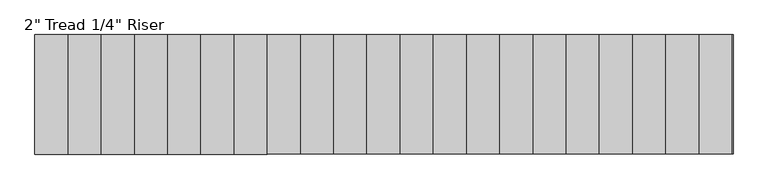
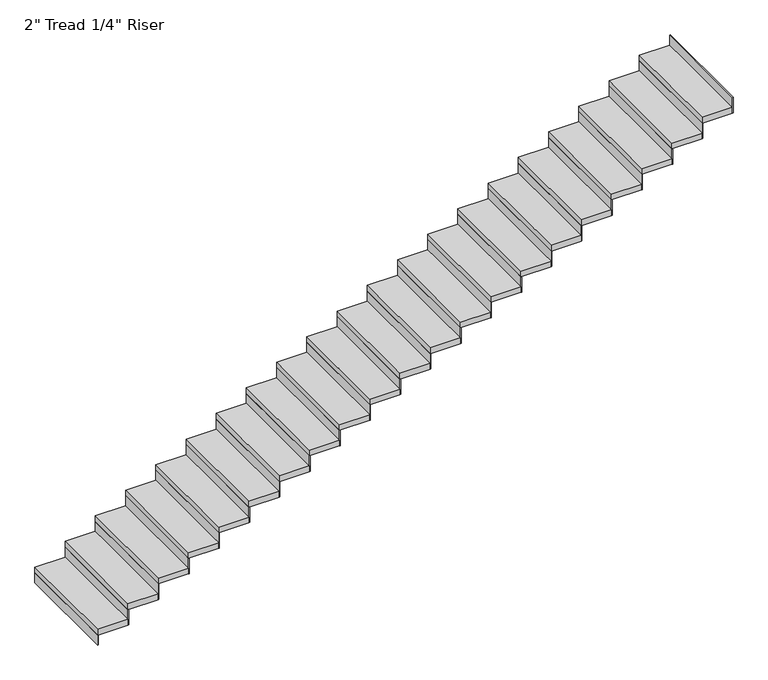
"""IFC4 building model written with IfcOpenShell, lengths in millimetres: stair flight geometry."""

from ifc_helpers import new_model, si_unit, frame, origin, origin_with_axes, place, context, project, spatial, polyline, outline, extrude, source, transform, mapped, element, save


def stair_flight_c19d4ff8(model_context):
    return source(origin(), model_context, "Body", "SweptSolid", [
        extrude(outline(polyline([(60465.2405484, -35593.481782), (60458.8905484, -35593.481782), (60458.8905484, -34679.081782), (60465.2405484, -34679.081782), (60465.2405484, -35593.481782)])), origin_with_axes(), (0.0, 0.0, 1.0), 87.7454545),
        extrude(outline(polyline([(60712.8905484, -34679.081782), (60712.8905484, -35593.481782), (60458.8905484, -35593.481782), (60458.8905484, -34679.081782), (60712.8905484, -34679.081782)])), frame((0.0, 0.0, 87.7454545), z_axis=(0.0, 0.0, 1.0), x_axis=(1.0, 0.0, 0.0)), (0.0, 0.0, 1.0), 50.8),
        extrude(outline(polyline([(60719.2405484, -35593.481782), (60712.8905484, -35593.481782), (60712.8905484, -34679.081782), (60719.2405484, -34679.081782), (60719.2405484, -35593.481782)])), frame((0.0, 0.0, 87.7454545), z_axis=(0.0, 0.0, 1.0), x_axis=(1.0, 0.0, 0.0)), (0.0, 0.0, 1.0), 138.5454545),
        extrude(outline(polyline([(60966.8905484, -34679.081782), (60966.8905484, -35593.481782), (60712.8905484, -35593.481782), (60712.8905484, -34679.081782), (60966.8905484, -34679.081782)])), frame((0.0, 0.0, 226.2909091), z_axis=(0.0, 0.0, 1.0), x_axis=(1.0, 0.0, 0.0)), (0.0, 0.0, 1.0), 50.8),
        extrude(outline(polyline([(60973.2405484, -35593.481782), (60966.8905484, -35593.481782), (60966.8905484, -34679.081782), (60973.2405484, -34679.081782), (60973.2405484, -35593.481782)])), frame((0.0, 0.0, 226.2909091), z_axis=(0.0, 0.0, 1.0), x_axis=(1.0, 0.0, 0.0)), (0.0, 0.0, 1.0), 138.5454545),
        extrude(outline(polyline([(61220.8905484, -34679.081782), (61220.8905484, -35593.481782), (60966.8905484, -35593.481782), (60966.8905484, -34679.081782), (61220.8905484, -34679.081782)])), frame((0.0, 0.0, 364.8363636), z_axis=(0.0, 0.0, 1.0), x_axis=(1.0, 0.0, 0.0)), (0.0, 0.0, 1.0), 50.8),
        extrude(outline(polyline([(61227.2405484, -35593.481782), (61220.8905484, -35593.481782), (61220.8905484, -34679.081782), (61227.2405484, -34679.081782), (61227.2405484, -35593.481782)])), frame((0.0, 0.0, 364.8363636), z_axis=(0.0, 0.0, 1.0), x_axis=(1.0, 0.0, 0.0)), (0.0, 0.0, 1.0), 138.5454545),
        extrude(outline(polyline([(61474.8905484, -34679.081782), (61474.8905484, -35593.481782), (61220.8905484, -35593.481782), (61220.8905484, -34679.081782), (61474.8905484, -34679.081782)])), frame((0.0, 0.0, 503.3818182), z_axis=(0.0, 0.0, 1.0), x_axis=(1.0, 0.0, 0.0)), (0.0, 0.0, 1.0), 50.8),
        extrude(outline(polyline([(61481.2405484, -35593.481782), (61474.8905484, -35593.481782), (61474.8905484, -34679.081782), (61481.2405484, -34679.081782), (61481.2405484, -35593.481782)])), frame((0.0, 0.0, 503.3818182), z_axis=(0.0, 0.0, 1.0), x_axis=(1.0, 0.0, 0.0)), (0.0, 0.0, 1.0), 138.5454545),
        extrude(outline(polyline([(61728.8905484, -34679.081782), (61728.8905484, -35593.481782), (61474.8905484, -35593.481782), (61474.8905484, -34679.081782), (61728.8905484, -34679.081782)])), frame((0.0, 0.0, 641.9272727), z_axis=(0.0, 0.0, 1.0), x_axis=(1.0, 0.0, 0.0)), (0.0, 0.0, 1.0), 50.8),
        extrude(outline(polyline([(61735.2405484, -35593.481782), (61728.8905484, -35593.481782), (61728.8905484, -34679.081782), (61735.2405484, -34679.081782), (61735.2405484, -35593.481782)])), frame((0.0, 0.0, 641.9272727), z_axis=(0.0, 0.0, 1.0), x_axis=(1.0, 0.0, 0.0)), (0.0, 0.0, 1.0), 138.5454545),
        extrude(outline(polyline([(61982.8905484, -34679.081782), (61982.8905484, -35593.481782), (61728.8905484, -35593.481782), (61728.8905484, -34679.081782), (61982.8905484, -34679.081782)])), frame((0.0, 0.0, 780.4727273), z_axis=(0.0, 0.0, 1.0), x_axis=(1.0, 0.0, 0.0)), (0.0, 0.0, 1.0), 50.8),
        extrude(outline(polyline([(61989.2405484, -35593.481782), (61982.8905484, -35593.481782), (61982.8905484, -34679.081782), (61989.2405484, -34679.081782), (61989.2405484, -35593.481782)])), frame((0.0, 0.0, 780.4727273), z_axis=(0.0, 0.0, 1.0), x_axis=(1.0, 0.0, 0.0)), (0.0, 0.0, 1.0), 138.5454545),
        extrude(outline(polyline([(62236.8905484, -34679.081782), (62236.8905484, -35593.481782), (61982.8905484, -35593.481782), (61982.8905484, -34679.081782), (62236.8905484, -34679.081782)])), frame((0.0, 0.0, 919.0181818), z_axis=(0.0, 0.0, 1.0), x_axis=(1.0, 0.0, 0.0)), (0.0, 0.0, 1.0), 50.8),
        extrude(outline(polyline([(62243.2405484, -35593.481782), (62236.8905484, -35593.481782), (62236.8905484, -34679.081782), (62243.2405484, -34679.081782), (62243.2405484, -35593.481782)])), frame((0.0, 0.0, 919.0181818), z_axis=(0.0, 0.0, 1.0), x_axis=(1.0, 0.0, 0.0)), (0.0, 0.0, 1.0), 138.5454545),
        extrude(outline(polyline([(62490.8905484, -34679.081782), (62490.8905484, -35593.481782), (62236.8905484, -35593.481782), (62236.8905484, -34679.081782), (62490.8905484, -34679.081782)])), frame((0.0, 0.0, 1057.5636364), z_axis=(0.0, 0.0, 1.0), x_axis=(1.0, 0.0, 0.0)), (0.0, 0.0, 1.0), 50.8),
        extrude(outline(polyline([(62497.2405484, -35593.481782), (62490.8905484, -35593.481782), (62490.8905484, -34679.081782), (62497.2405484, -34679.081782), (62497.2405484, -35593.481782)])), frame((0.0, 0.0, 1057.5636364), z_axis=(0.0, 0.0, 1.0), x_axis=(1.0, 0.0, 0.0)), (0.0, 0.0, 1.0), 138.5454545),
        extrude(outline(polyline([(62744.8905484, -34679.081782), (62744.8905484, -35593.481782), (62490.8905484, -35593.481782), (62490.8905484, -34679.081782), (62744.8905484, -34679.081782)])), frame((0.0, 0.0, 1196.1090909), z_axis=(0.0, 0.0, 1.0), x_axis=(1.0, 0.0, 0.0)), (0.0, 0.0, 1.0), 50.8),
        extrude(outline(polyline([(62751.2405484, -35593.481782), (62744.8905484, -35593.481782), (62744.8905484, -34679.081782), (62751.2405484, -34679.081782), (62751.2405484, -35593.481782)])), frame((0.0, 0.0, 1196.1090909), z_axis=(0.0, 0.0, 1.0), x_axis=(1.0, 0.0, 0.0)), (0.0, 0.0, 1.0), 138.5454545),
        extrude(outline(polyline([(62998.8905484, -34679.081782), (62998.8905484, -35593.481782), (62744.8905484, -35593.481782), (62744.8905484, -34679.081782), (62998.8905484, -34679.081782)])), frame((0.0, 0.0, 1334.6545455), z_axis=(0.0, 0.0, 1.0), x_axis=(1.0, 0.0, 0.0)), (0.0, 0.0, 1.0), 50.8),
        extrude(outline(polyline([(63005.2405484, -35593.481782), (62998.8905484, -35593.481782), (62998.8905484, -34679.081782), (63005.2405484, -34679.081782), (63005.2405484, -35593.481782)])), frame((0.0, 0.0, 1334.6545455), z_axis=(0.0, 0.0, 1.0), x_axis=(1.0, 0.0, 0.0)), (0.0, 0.0, 1.0), 138.5454545),
        extrude(outline(polyline([(63252.8905484, -34679.081782), (63252.8905484, -35593.481782), (62998.8905484, -35593.481782), (62998.8905484, -34679.081782), (63252.8905484, -34679.081782)])), frame((0.0, 0.0, 1473.2), z_axis=(0.0, 0.0, 1.0), x_axis=(1.0, 0.0, 0.0)), (0.0, 0.0, 1.0), 50.8),
        extrude(outline(polyline([(63259.2405484, -35593.481782), (63252.8905484, -35593.481782), (63252.8905484, -34679.081782), (63259.2405484, -34679.081782), (63259.2405484, -35593.481782)])), frame((0.0, 0.0, 1473.2), z_axis=(0.0, 0.0, 1.0), x_axis=(1.0, 0.0, 0.0)), (0.0, 0.0, 1.0), 138.5454545),
        extrude(outline(polyline([(63506.8905484, -34679.081782), (63506.8905484, -35593.481782), (63252.8905484, -35593.481782), (63252.8905484, -34679.081782), (63506.8905484, -34679.081782)])), frame((0.0, 0.0, 1611.7454545), z_axis=(0.0, 0.0, 1.0), x_axis=(1.0, 0.0, 0.0)), (0.0, 0.0, 1.0), 50.8),
        extrude(outline(polyline([(63513.2405484, -35593.481782), (63506.8905484, -35593.481782), (63506.8905484, -34679.081782), (63513.2405484, -34679.081782), (63513.2405484, -35593.481782)])), frame((0.0, 0.0, 1611.7454545), z_axis=(0.0, 0.0, 1.0), x_axis=(1.0, 0.0, 0.0)), (0.0, 0.0, 1.0), 138.5454545),
        extrude(outline(polyline([(63760.8905484, -34679.081782), (63760.8905484, -35593.481782), (63506.8905484, -35593.481782), (63506.8905484, -34679.081782), (63760.8905484, -34679.081782)])), frame((0.0, 0.0, 1750.2909091), z_axis=(0.0, 0.0, 1.0), x_axis=(1.0, 0.0, 0.0)), (0.0, 0.0, 1.0), 50.8),
        extrude(outline(polyline([(63767.2405484, -35593.481782), (63760.8905484, -35593.481782), (63760.8905484, -34679.081782), (63767.2405484, -34679.081782), (63767.2405484, -35593.481782)])), frame((0.0, 0.0, 1750.2909091), z_axis=(0.0, 0.0, 1.0), x_axis=(1.0, 0.0, 0.0)), (0.0, 0.0, 1.0), 138.5454545),
        extrude(outline(polyline([(64014.8905484, -34679.081782), (64014.8905484, -35593.481782), (63760.8905484, -35593.481782), (63760.8905484, -34679.081782), (64014.8905484, -34679.081782)])), frame((0.0, 0.0, 1888.8363636), z_axis=(0.0, 0.0, 1.0), x_axis=(1.0, 0.0, 0.0)), (0.0, 0.0, 1.0), 50.8),
        extrude(outline(polyline([(64021.2405484, -35593.481782), (64014.8905484, -35593.481782), (64014.8905484, -34679.081782), (64021.2405484, -34679.081782), (64021.2405484, -35593.481782)])), frame((0.0, 0.0, 1888.8363636), z_axis=(0.0, 0.0, 1.0), x_axis=(1.0, 0.0, 0.0)), (0.0, 0.0, 1.0), 138.5454545),
        extrude(outline(polyline([(64268.8905484, -34679.081782), (64268.8905484, -35593.481782), (64014.8905484, -35593.481782), (64014.8905484, -34679.081782), (64268.8905484, -34679.081782)])), frame((0.0, 0.0, 2027.3818182), z_axis=(0.0, 0.0, 1.0), x_axis=(1.0, 0.0, 0.0)), (0.0, 0.0, 1.0), 50.8),
        extrude(outline(polyline([(64275.2405484, -35593.481782), (64268.8905484, -35593.481782), (64268.8905484, -34679.081782), (64275.2405484, -34679.081782), (64275.2405484, -35593.481782)])), frame((0.0, 0.0, 2027.3818182), z_axis=(0.0, 0.0, 1.0), x_axis=(1.0, 0.0, 0.0)), (0.0, 0.0, 1.0), 138.5454545),
        extrude(outline(polyline([(64522.8905484, -34679.081782), (64522.8905484, -35593.481782), (64268.8905484, -35593.481782), (64268.8905484, -34679.081782), (64522.8905484, -34679.081782)])), frame((0.0, 0.0, 2165.9272727), z_axis=(0.0, 0.0, 1.0), x_axis=(1.0, 0.0, 0.0)), (0.0, 0.0, 1.0), 50.8),
        extrude(outline(polyline([(64529.2405484, -35593.481782), (64522.8905484, -35593.481782), (64522.8905484, -34679.081782), (64529.2405484, -34679.081782), (64529.2405484, -35593.481782)])), frame((0.0, 0.0, 2165.9272727), z_axis=(0.0, 0.0, 1.0), x_axis=(1.0, 0.0, 0.0)), (0.0, 0.0, 1.0), 138.5454545),
        extrude(outline(polyline([(64776.8905484, -34679.081782), (64776.8905484, -35593.481782), (64522.8905484, -35593.481782), (64522.8905484, -34679.081782), (64776.8905484, -34679.081782)])), frame((0.0, 0.0, 2304.4727273), z_axis=(0.0, 0.0, 1.0), x_axis=(1.0, 0.0, 0.0)), (0.0, 0.0, 1.0), 50.8),
        extrude(outline(polyline([(64783.2405484, -35593.481782), (64776.8905484, -35593.481782), (64776.8905484, -34679.081782), (64783.2405484, -34679.081782), (64783.2405484, -35593.481782)])), frame((0.0, 0.0, 2304.4727273), z_axis=(0.0, 0.0, 1.0), x_axis=(1.0, 0.0, 0.0)), (0.0, 0.0, 1.0), 138.5454545),
        extrude(outline(polyline([(65030.8905484, -34679.081782), (65030.8905484, -35593.481782), (64776.8905484, -35593.481782), (64776.8905484, -34679.081782), (65030.8905484, -34679.081782)])), frame((0.0, 0.0, 2443.0181818), z_axis=(0.0, 0.0, 1.0), x_axis=(1.0, 0.0, 0.0)), (0.0, 0.0, 1.0), 50.8),
        extrude(outline(polyline([(65037.2405484, -35593.481782), (65030.8905484, -35593.481782), (65030.8905484, -34679.081782), (65037.2405484, -34679.081782), (65037.2405484, -35593.481782)])), frame((0.0, 0.0, 2443.0181818), z_axis=(0.0, 0.0, 1.0), x_axis=(1.0, 0.0, 0.0)), (0.0, 0.0, 1.0), 138.5454545),
        extrude(outline(polyline([(65284.8905484, -34679.081782), (65284.8905484, -35593.481782), (65030.8905484, -35593.481782), (65030.8905484, -34679.081782), (65284.8905484, -34679.081782)])), frame((0.0, 0.0, 2581.5636364), z_axis=(0.0, 0.0, 1.0), x_axis=(1.0, 0.0, 0.0)), (0.0, 0.0, 1.0), 50.8),
        extrude(outline(polyline([(65291.2405484, -35593.481782), (65284.8905484, -35593.481782), (65284.8905484, -34679.081782), (65291.2405484, -34679.081782), (65291.2405484, -35593.481782)])), frame((0.0, 0.0, 2581.5636364), z_axis=(0.0, 0.0, 1.0), x_axis=(1.0, 0.0, 0.0)), (0.0, 0.0, 1.0), 138.5454545),
        extrude(outline(polyline([(65538.8905484, -34679.081782), (65538.8905484, -35593.481782), (65284.8905484, -35593.481782), (65284.8905484, -34679.081782), (65538.8905484, -34679.081782)])), frame((0.0, 0.0, 2720.1090909), z_axis=(0.0, 0.0, 1.0), x_axis=(1.0, 0.0, 0.0)), (0.0, 0.0, 1.0), 50.8),
        extrude(outline(polyline([(65545.2405484, -35593.481782), (65538.8905484, -35593.481782), (65538.8905484, -34679.081782), (65545.2405484, -34679.081782), (65545.2405484, -35593.481782)])), frame((0.0, 0.0, 2720.1090909), z_axis=(0.0, 0.0, 1.0), x_axis=(1.0, 0.0, 0.0)), (0.0, 0.0, 1.0), 138.5454545),
        extrude(outline(polyline([(65799.2405484, -35593.481782), (65792.8905484, -35593.481782), (65792.8905484, -34679.081782), (65799.2405484, -34679.081782), (65799.2405484, -35593.481782)])), frame((0.0, 0.0, 2858.6545455), z_axis=(0.0, 0.0, 1.0), x_axis=(1.0, 0.0, 0.0)), (0.0, 0.0, 1.0), 138.5454545),
        extrude(outline(polyline([(65792.8905484, -34679.081782), (65792.8905484, -35593.481782), (65538.8905484, -35593.481782), (65538.8905484, -34679.081782), (65792.8905484, -34679.081782)])), frame((0.0, 0.0, 2858.6545455), z_axis=(0.0, 0.0, 1.0), x_axis=(1.0, 0.0, 0.0)), (0.0, 0.0, 1.0), 50.8),
    ])


if __name__ == "__main__":
    model = new_model("IFC4")
    model_context = context("Model", 3, world=origin())
    ifc_project = project(units=[si_unit("LENGTHUNIT", "METRE", prefix="MILLI")], contexts=[model_context])
    site = spatial("IfcSite", under=ifc_project)
    building = spatial("IfcBuilding", under=site)
    placement = place(None, origin())
    stair_flight_shape = stair_flight_c19d4ff8(model_context)
    element("IfcStairFlight", 1, ObjectType="2\" Tread 1/4\" Riser", at=placement, inside=building, context=model_context, shape_type="MappedRepresentation", body=[
        mapped(stair_flight_shape, transform((0.0, 0.0, 0.0), x_axis=(1.0, 0.0, 0.0), y_axis=(0.0, 1.0, 0.0), z_axis=(0.0, 0.0, 1.0))),
    ])
    save(model, "model.ifc")
